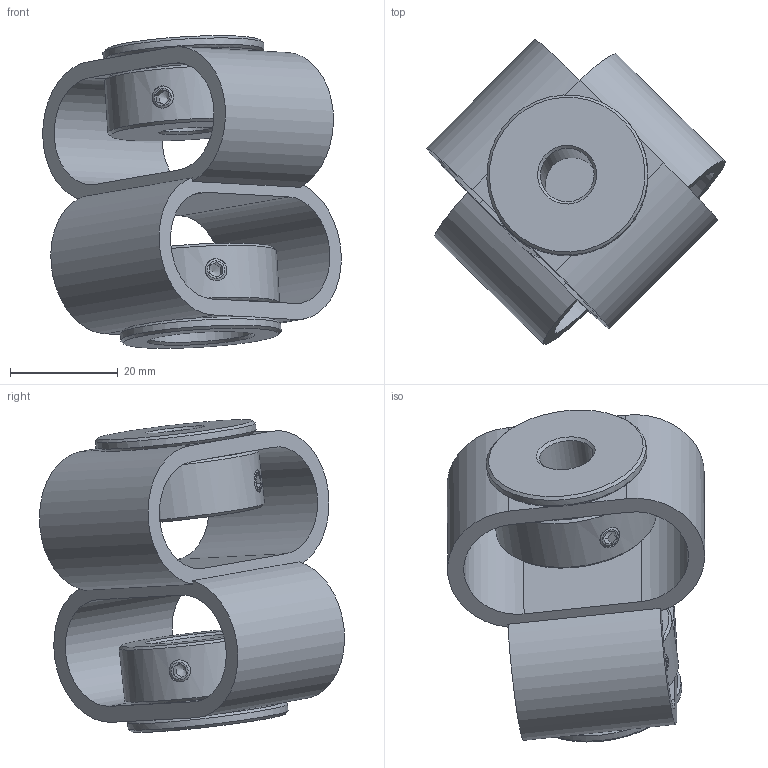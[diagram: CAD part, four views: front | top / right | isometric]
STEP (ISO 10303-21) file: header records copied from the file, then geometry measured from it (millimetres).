
FILE_DESCRIPTION(/* description */ (''),/* implementation_level */ '2;1');
FILE_NAME(/* name */ 'E:\ABP_bauteile\Doppelschlaufenkupplung\DKPS_5658\Doppelschlaufenkupplung_DKPS_5658_10_19.stp',/* time_stamp */ '2015-03-13T11:28:01+01:00',/* author */ ('Rob'),/* organization */ (''),/* preprocessor_version */ 'ST-DEVELOPER v15.6',/* originating_system */ 'Autodesk Inventor 2015',/* authorisation */ '');
FILE_SCHEMA (('CONFIG_CONTROL_DESIGN'));
Length unit declared in the file: millimetre
Products named in the file (1): Bauteil36
Bounding box: 55.53 x 56.74 x 58.16 mm (x, y, z)
Volume: 30787.2 mm3; surface area: 18065.9 mm2
Topology: 1 solids, 1 shells, 146 faces, 366 edges, 220 vertices
Faces by surface type: plane 84, cone 34, cylinder 28
Full cylindrical faces by diameter (mm): 4.134 x8, 10 x1, 19 x1, 21.5 x2, 23 x4, 30 x4
Entity records: 4186 total; most frequent: CARTESIAN_POINT 1059, DIRECTION 662, ORIENTED_EDGE 568, EDGE_CURVE 284, AXIS2_PLACEMENT_3D 265, EDGE_LOOP 214, VERTEX_POINT 184, FACE_OUTER_BOUND 146
